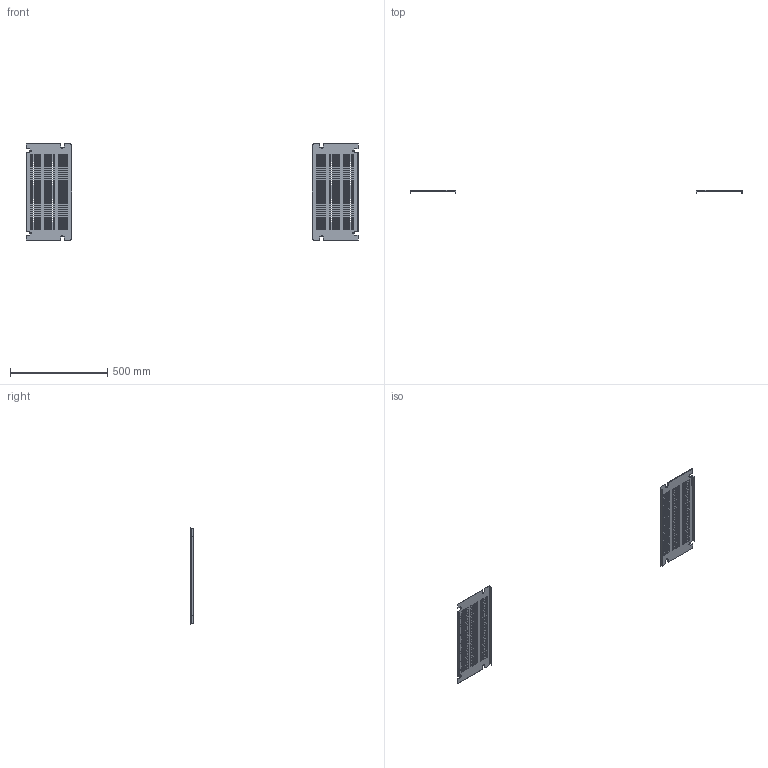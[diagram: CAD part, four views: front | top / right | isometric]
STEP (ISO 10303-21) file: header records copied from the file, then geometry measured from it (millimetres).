
FILE_DESCRIPTION(('CAx-IF Rec.Pracs.---Model Styling and Organization---1.2---2011-12-15','CAx-IF Rec.Pracs.---Geometric and Assembly Validation Properties---4.1---2014-06-16','CAx-IF Rec.Pracs.---PMI Polyline Presentation---2.0---2013-05-24'),'2;1');
FILE_NAME('R5CPFAP633.stp','2021-05-06T03:32:47+03:00',(''),(''),'STEP Interface 4.4 by CT CoreTechnologie','3D_Evolution4.4 by CT CoreTechnologie','');
FILE_SCHEMA(('AUTOMOTIVE_DESIGN { 1 0 10303 214 1 1 1 1 }'));
Length unit declared in the file: millimetre
Products named in the file (2): R5CPFAP633; RB.0543.00.00.0_-01
Assembly tree (2 placements, depth 2):
  R5CPFAP633
    RB.0543.00.00.0_-01  x2
Bounding box: 1704.5 x 15 x 499 mm (x, y, z)
Surface area: 491157.9 mm2 (no closed solid volume)
Topology: 0 solids, 2 shells, 1044 faces, 3112 edges, 2072 vertices
Faces by surface type: plane 1020, cylinder 24
Entity records: 17749 total; most frequent: CARTESIAN_POINT 3117, ORIENTED_EDGE 3112, DIRECTION 2630, EDGE_CURVE 1556, VECTOR 1532, LINE 1532, VERTEX_POINT 1036, EDGE_LOOP 764
